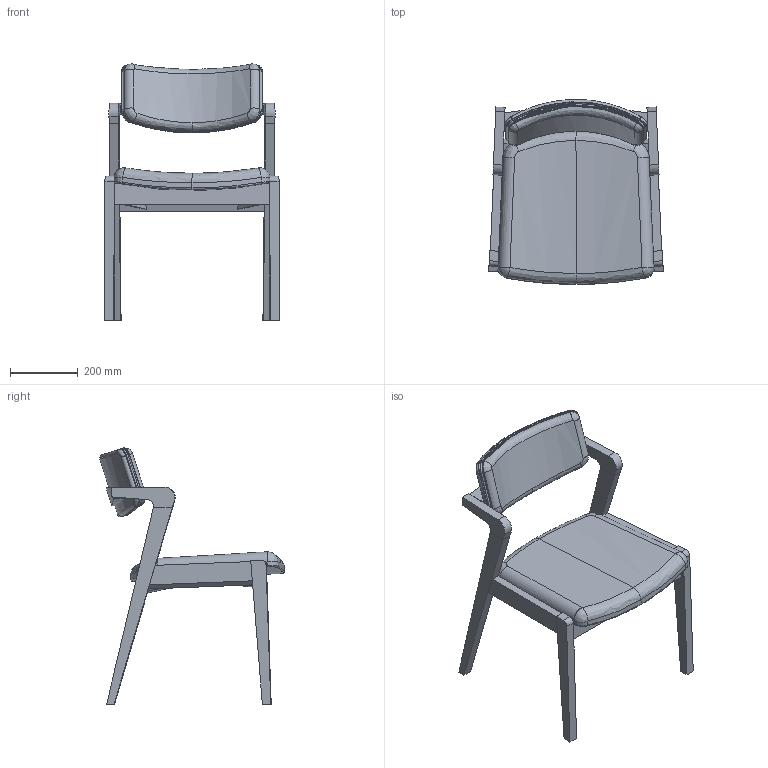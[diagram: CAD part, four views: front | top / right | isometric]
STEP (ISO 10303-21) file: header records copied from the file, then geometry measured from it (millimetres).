
FILE_DESCRIPTION(/* description */ (''),/* implementation_level */ '2;1');
FILE_NAME(/* name */ 'kinoshita_abord_w016',/* time_stamp */ '2024-07-10T17:27:38+09:00',/* author */ (''),/* organization */ (''),/* preprocessor_version */ 'ST-DEVELOPER v16.5',/* originating_system */ '',/* authorisation */ '');
FILE_SCHEMA (('AUTOMOTIVE_DESIGN'));
Length unit declared in the file: millimetre
Products named in the file (1): Document
Bounding box: 515.36 x 545.79 x 756.68 mm (x, y, z)
Volume: 11985282.8 mm3; surface area: 1445843.9 mm2
Topology: 4 solids, 5 shells, 247 faces, 623 edges, 384 vertices
Faces by surface type: bspline 128, plane 119
Entity records: 38746 total; most frequent: CARTESIAN_POINT 34824, ORIENTED_EDGE 1226, EDGE_CURVE 615, B_SPLINE_CURVE_WITH_KNOTS 459, VERTEX_POINT 382, EDGE_LOOP 269, ADVANCED_FACE 245, FACE_OUTER_BOUND 245
